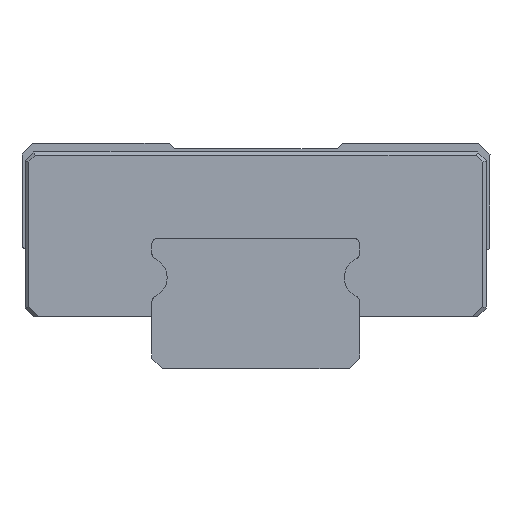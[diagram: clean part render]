
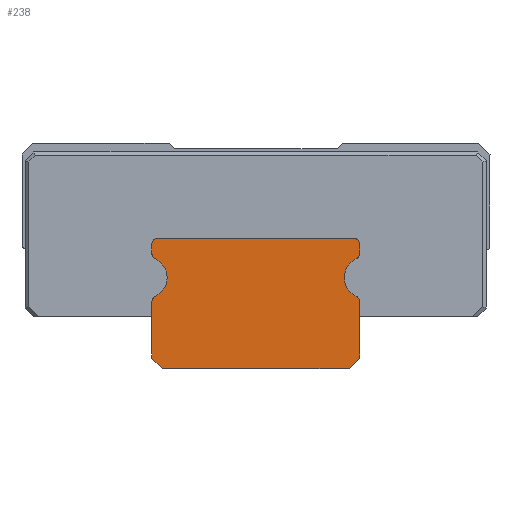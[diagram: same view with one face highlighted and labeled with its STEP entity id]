
A CAD part, front view. The second image highlights one B-rep face of the part: STEP entity #238.
In plain terms, the highlighted planar face has unit normal (0, -1, 0).
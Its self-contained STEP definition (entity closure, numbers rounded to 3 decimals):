
#238 = ADVANCED_FACE( '', ( #486 ), #487, .T. );
#486 = FACE_OUTER_BOUND( '', #734, .T. );
#487 = PLANE( '', #735 );
#734 = EDGE_LOOP( '', ( #1659, #1660, #1661, #1662, #1663, #1664, #1665, #1666, #1667, #1668, #1669, #1670, #1671, #1672, #1673, #1674 ) );
#735 = AXIS2_PLACEMENT_3D( '', #1675, #1676, #1677 );
#1659 = ORIENTED_EDGE( '', *, *, #1919, .F. );
#1660 = ORIENTED_EDGE( '', *, *, #1934, .T. );
#1661 = ORIENTED_EDGE( '', *, *, #1931, .T. );
#1662 = ORIENTED_EDGE( '', *, *, #1927, .T. );
#1663 = ORIENTED_EDGE( '', *, *, #1965, .T. );
#1664 = ORIENTED_EDGE( '', *, *, #1962, .T. );
#1665 = ORIENTED_EDGE( '', *, *, #1959, .T. );
#1666 = ORIENTED_EDGE( '', *, *, #1956, .T. );
#1667 = ORIENTED_EDGE( '', *, *, #1911, .T. );
#1668 = ORIENTED_EDGE( '', *, *, #1954, .T. );
#1669 = ORIENTED_EDGE( '', *, *, #1951, .T. );
#1670 = ORIENTED_EDGE( '', *, *, #1948, .T. );
#1671 = ORIENTED_EDGE( '', *, *, #1945, .T. );
#1672 = ORIENTED_EDGE( '', *, *, #1942, .T. );
#1673 = ORIENTED_EDGE( '', *, *, #1939, .T. );
#1674 = ORIENTED_EDGE( '', *, *, #1936, .T. );
#1675 = CARTESIAN_POINT( '', ( 35.438, 10., -11.4 ) );
#1676 = DIRECTION( '', ( 0., -1., 0. ) );
#1677 = DIRECTION( '', ( -1., 0., 0. ) );
#1911 = EDGE_CURVE( '', #2369, #2370, #2371, .T. );
#1919 = EDGE_CURVE( '', #2381, #2382, #2383, .T. );
#1927 = EDGE_CURVE( '', #2393, #2394, #2395, .T. );
#1931 = EDGE_CURVE( '', #2401, #2393, #2402, .T. );
#1934 = EDGE_CURVE( '', #2381, #2401, #2406, .T. );
#1936 = EDGE_CURVE( '', #2408, #2382, #2409, .T. );
#1939 = EDGE_CURVE( '', #2413, #2408, #2414, .T. );
#1942 = EDGE_CURVE( '', #2418, #2413, #2419, .T. );
#1945 = EDGE_CURVE( '', #2423, #2418, #2424, .T. );
#1948 = EDGE_CURVE( '', #2428, #2423, #2429, .T. );
#1951 = EDGE_CURVE( '', #2433, #2428, #2434, .T. );
#1954 = EDGE_CURVE( '', #2370, #2433, #2438, .T. );
#1956 = EDGE_CURVE( '', #2440, #2369, #2441, .T. );
#1959 = EDGE_CURVE( '', #2445, #2440, #2446, .T. );
#1962 = EDGE_CURVE( '', #2450, #2445, #2451, .T. );
#1965 = EDGE_CURVE( '', #2394, #2450, #2455, .T. );
#2369 = VERTEX_POINT( '', #3025 );
#2370 = VERTEX_POINT( '', #3026 );
#2371 = LINE( '', #3027, #3028 );
#2381 = VERTEX_POINT( '', #3041 );
#2382 = VERTEX_POINT( '', #3042 );
#2383 = LINE( '', #3043, #3044 );
#2393 = VERTEX_POINT( '', #3057 );
#2394 = VERTEX_POINT( '', #3058 );
#2395 = CIRCLE( '', #3059, 0.3 );
#2401 = VERTEX_POINT( '', #3067 );
#2402 = LINE( '', #3068, #3069 );
#2406 = CIRCLE( '', #3075, 0.3 );
#2408 = VERTEX_POINT( '', #3077 );
#2409 = CIRCLE( '', #3078, 0.3 );
#2413 = VERTEX_POINT( '', #3083 );
#2414 = LINE( '', #3084, #3085 );
#2418 = VERTEX_POINT( '', #3091 );
#2419 = CIRCLE( '', #3092, 0.3 );
#2423 = VERTEX_POINT( '', #3097 );
#2424 = CIRCLE( '', #3098, 1.191 );
#2428 = VERTEX_POINT( '', #3103 );
#2429 = CIRCLE( '', #3104, 0.3 );
#2433 = VERTEX_POINT( '', #3111 );
#2434 = LINE( '', #3112, #3113 );
#2438 = LINE( '', #3119, #3120 );
#2440 = VERTEX_POINT( '', #3123 );
#2441 = LINE( '', #3124, #3125 );
#2445 = VERTEX_POINT( '', #3131 );
#2446 = LINE( '', #3132, #3133 );
#2450 = VERTEX_POINT( '', #3141 );
#2451 = CIRCLE( '', #3142, 0.3 );
#2455 = CIRCLE( '', #3147, 1.191 );
#3025 = CARTESIAN_POINT( '', ( 44.612, 10., -9.9 ) );
#3026 = CARTESIAN_POINT( '', ( 55.388, 10., -9.9 ) );
#3027 = CARTESIAN_POINT( '', ( 55.388, 10., -9.9 ) );
#3028 = VECTOR( '', #3527, 1. );
#3041 = CARTESIAN_POINT( '', ( 44.312, 10., -2.4 ) );
#3042 = CARTESIAN_POINT( '', ( 55.688, 10., -2.4 ) );
#3043 = CARTESIAN_POINT( '', ( 35.438, 10., -2.4 ) );
#3044 = VECTOR( '', #3543, 1. );
#3057 = CARTESIAN_POINT( '', ( 44.012, 10., -3.291 ) );
#3058 = CARTESIAN_POINT( '', ( 44.189, 10., -3.564 ) );
#3059 = AXIS2_PLACEMENT_3D( '', #3559, #3560, #3561 );
#3067 = CARTESIAN_POINT( '', ( 44.012, 10., -2.7 ) );
#3068 = CARTESIAN_POINT( '', ( 44.012, 10., -3.291 ) );
#3069 = VECTOR( '', #3567, 1. );
#3075 = AXIS2_PLACEMENT_3D( '', #3570, #3571, #3572 );
#3077 = CARTESIAN_POINT( '', ( 55.988, 10., -2.7 ) );
#3078 = AXIS2_PLACEMENT_3D( '', #3576, #3577, #3578 );
#3083 = CARTESIAN_POINT( '', ( 55.988, 10., -3.291 ) );
#3084 = CARTESIAN_POINT( '', ( 55.988, 10., -2.7 ) );
#3085 = VECTOR( '', #3583, 1. );
#3091 = CARTESIAN_POINT( '', ( 55.811, 10., -3.564 ) );
#3092 = AXIS2_PLACEMENT_3D( '', #3586, #3587, #3588 );
#3097 = CARTESIAN_POINT( '', ( 55.811, 10., -5.736 ) );
#3098 = AXIS2_PLACEMENT_3D( '', #3593, #3594, #3595 );
#3103 = CARTESIAN_POINT( '', ( 55.988, 10., -6.009 ) );
#3104 = AXIS2_PLACEMENT_3D( '', #3600, #3601, #3602 );
#3111 = CARTESIAN_POINT( '', ( 56., 10., -9.288 ) );
#3112 = CARTESIAN_POINT( '', ( 56., 10., -6.009 ) );
#3113 = VECTOR( '', #3606, 1. );
#3119 = CARTESIAN_POINT( '', ( 55.988, 10., -9.3 ) );
#3120 = VECTOR( '', #3609, 1. );
#3123 = CARTESIAN_POINT( '', ( 44., 10., -9.288 ) );
#3124 = CARTESIAN_POINT( '', ( 44.612, 10., -9.9 ) );
#3125 = VECTOR( '', #3611, 1. );
#3131 = CARTESIAN_POINT( '', ( 44., 10., -6.009 ) );
#3132 = CARTESIAN_POINT( '', ( 44., 10., -9.3 ) );
#3133 = VECTOR( '', #3614, 1. );
#3141 = CARTESIAN_POINT( '', ( 44.189, 10., -5.736 ) );
#3142 = AXIS2_PLACEMENT_3D( '', #3616, #3617, #3618 );
#3147 = AXIS2_PLACEMENT_3D( '', #3623, #3624, #3625 );
#3527 = DIRECTION( '', ( 1., 0., 0. ) );
#3543 = DIRECTION( '', ( 1., 0., 0. ) );
#3559 = CARTESIAN_POINT( '', ( 44.312, 10., -3.291 ) );
#3560 = DIRECTION( '', ( 0., -1., 0. ) );
#3561 = DIRECTION( '', ( 1., 0., 0. ) );
#3567 = DIRECTION( '', ( 0., 0., -1. ) );
#3570 = CARTESIAN_POINT( '', ( 44.312, 10., -2.7 ) );
#3571 = DIRECTION( '', ( 0., -1., 0. ) );
#3572 = DIRECTION( '', ( 1., 0., 0. ) );
#3576 = CARTESIAN_POINT( '', ( 55.688, 10., -2.7 ) );
#3577 = DIRECTION( '', ( 0., -1., 0. ) );
#3578 = DIRECTION( '', ( 1., 0., 0. ) );
#3583 = DIRECTION( '', ( 0., 0., 1. ) );
#3586 = CARTESIAN_POINT( '', ( 55.688, 10., -3.291 ) );
#3587 = DIRECTION( '', ( 0., -1., 0. ) );
#3588 = DIRECTION( '', ( 1., 0., 0. ) );
#3593 = CARTESIAN_POINT( '', ( 56.3, 10., -4.65 ) );
#3594 = DIRECTION( '', ( 0., 1., 0. ) );
#3595 = DIRECTION( '', ( 1., 0., 0. ) );
#3600 = CARTESIAN_POINT( '', ( 55.688, 10., -6.009 ) );
#3601 = DIRECTION( '', ( 0., -1., 0. ) );
#3602 = DIRECTION( '', ( 1., 0., 0. ) );
#3606 = DIRECTION( '', ( 0., 0., 1. ) );
#3609 = DIRECTION( '', ( 0.707, 0., 0.707 ) );
#3611 = DIRECTION( '', ( 0.707, 0., -0.707 ) );
#3614 = DIRECTION( '', ( 0., 0., -1. ) );
#3616 = CARTESIAN_POINT( '', ( 44.312, 10., -6.009 ) );
#3617 = DIRECTION( '', ( 0., -1., 0. ) );
#3618 = DIRECTION( '', ( 1., 0., 0. ) );
#3623 = CARTESIAN_POINT( '', ( 43.7, 10., -4.65 ) );
#3624 = DIRECTION( '', ( 0., 1., 0. ) );
#3625 = DIRECTION( '', ( 1., 0., 0. ) );
